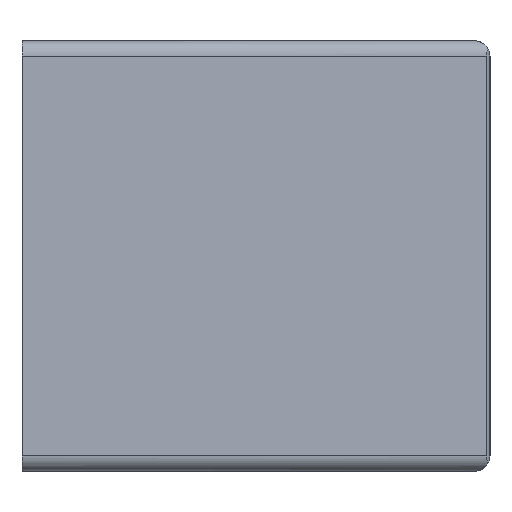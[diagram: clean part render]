
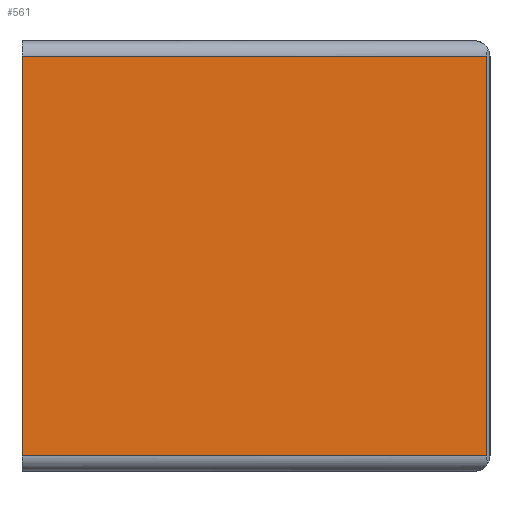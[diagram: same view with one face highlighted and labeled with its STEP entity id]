
A CAD part, left-side view. The second image highlights one B-rep face of the part: STEP entity #561.
In plain terms, the highlighted planar face has unit normal (-0.996, -0.087, 0).
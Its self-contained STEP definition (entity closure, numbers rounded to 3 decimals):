
#297 = VERTEX_POINT( '', #716 );
#331 = VERTEX_POINT( '', #753 );
#363 = VERTEX_POINT( '', #788 );
#429 = EDGE_CURVE( '', #453, #331, #860, .T. );
#435 = EDGE_CURVE( '', #297, #331, #866, .T. );
#453 = VERTEX_POINT( '', #886 );
#487 = EDGE_CURVE( '', #453, #363, #926, .T. );
#561 = ADVANCED_FACE( '', ( #1006 ), #1007, .T. );
#569 = EDGE_CURVE( '', #363, #297, #1016, .T. );
#716 = CARTESIAN_POINT( '', ( -1.096, -29.771, -12.8 ) );
#753 = CARTESIAN_POINT( '', ( -1.096, -29.771, 12.8 ) );
#788 = CARTESIAN_POINT( '', ( -3.701, 0., -12.8 ) );
#860 = LINE( '', #1428, #1429 );
#866 = LINE( '', #1446, #1447 );
#886 = CARTESIAN_POINT( '', ( -3.701, 0., 12.8 ) );
#926 = LINE( '', #1525, #1526 );
#1006 = FACE_OUTER_BOUND( '', #1635, .T. );
#1007 = PLANE( '', #1636 );
#1016 = LINE( '', #1648, #1649 );
#1428 = CARTESIAN_POINT( '', ( -5.409, 19.527, 12.8 ) );
#1429 = VECTOR( '', #1988, 1. );
#1446 = CARTESIAN_POINT( '', ( -1.096, -29.771, 0. ) );
#1447 = VECTOR( '', #1989, 1. );
#1525 = CARTESIAN_POINT( '', ( -3.701, 0., 18.6 ) );
#1526 = VECTOR( '', #2077, 1. );
#1635 = EDGE_LOOP( '', ( #2160, #2161, #2162, #2163 ) );
#1636 = AXIS2_PLACEMENT_3D( '', #2164, #2165, #2166 );
#1648 = CARTESIAN_POINT( '', ( -5.409, 19.527, -12.8 ) );
#1649 = VECTOR( '', #2182, 1. );
#1988 = DIRECTION( '', ( 0.087, -0.996, 0. ) );
#1989 = DIRECTION( '', ( 0., 0., 1. ) );
#2077 = DIRECTION( '', ( 0., 0., -1. ) );
#2160 = ORIENTED_EDGE( '', *, *, #435, .T. );
#2161 = ORIENTED_EDGE( '', *, *, #429, .F. );
#2162 = ORIENTED_EDGE( '', *, *, #487, .T. );
#2163 = ORIENTED_EDGE( '', *, *, #569, .T. );
#2164 = CARTESIAN_POINT( '', ( -5.409, 19.527, -12.8 ) );
#2165 = DIRECTION( '', ( -0.996, -0.087, 0. ) );
#2166 = DIRECTION( '', ( 0., 0., -1. ) );
#2182 = DIRECTION( '', ( 0.087, -0.996, 0. ) );
